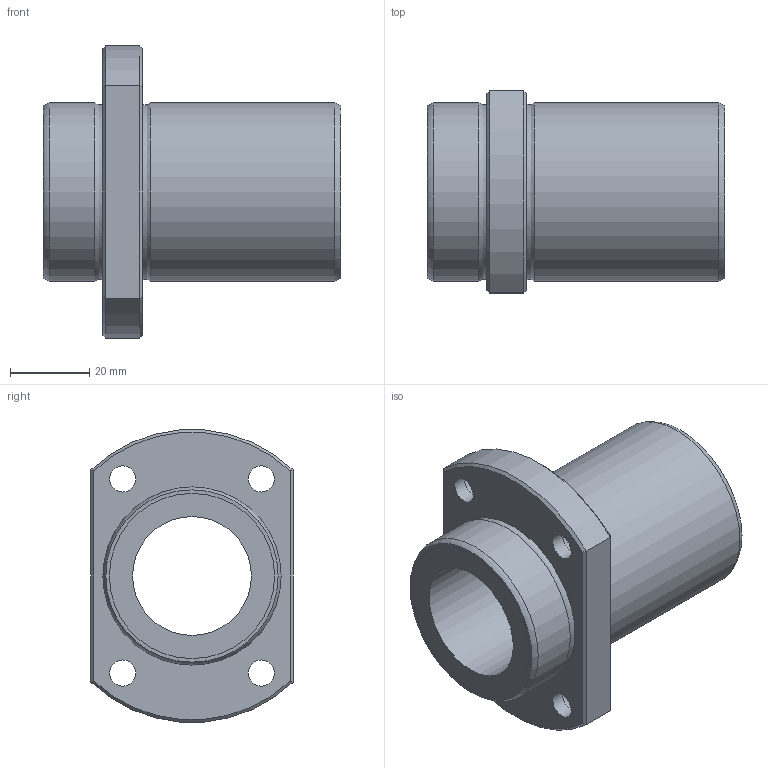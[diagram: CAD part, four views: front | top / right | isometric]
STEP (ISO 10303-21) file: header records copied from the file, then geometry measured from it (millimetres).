
FILE_DESCRIPTION((''),'2;1');
FILE_NAME('C:\Documents and Settings\土屋\My Documents\土屋移動用フォルダ\製品 (図面)\カタログ用3D\変換ファイル\OZAK_3D-CAD(STEP形式)\Part1.-Linear Bearings_ﾘﾆｱﾍﾞｱﾘﾝｸﾞ\09_Maintenance Free_ﾒｲﾝﾃﾅﾝｽﾌﾘｰ\L2017-09-21T13:52:10','2017-09-21T13:52:10',('y'),(''),'Autodesk Inventor 11','Autodesk Inventor 11','');
FILE_SCHEMA(('AUTOMOTIVE_DESIGN { 1 0 10303 214 1 1 1 1 }'));
Length unit declared in the file: millimetre
Products named in the file (1): LFTB-MF
Bounding box: 75 x 51 x 73.74 mm (x, y, z)
Volume: 81318.3 mm3; surface area: 24652.2 mm2
Topology: 1 solids, 1 shells, 39 faces, 75 edges, 46 vertices
Faces by surface type: bspline 14, plane 12, cylinder 7, cone 4, torus 2
Full cylindrical faces by diameter (mm): 30 x1, 41.7 x2, 45 x2
Entity records: 1177 total; most frequent: CARTESIAN_POINT 440, DIRECTION 140, ORIENTED_EDGE 116, EDGE_LOOP 74, AXIS2_PLACEMENT_3D 64, EDGE_CURVE 58, VERTEX_POINT 46, FACE_OUTER_BOUND 39
